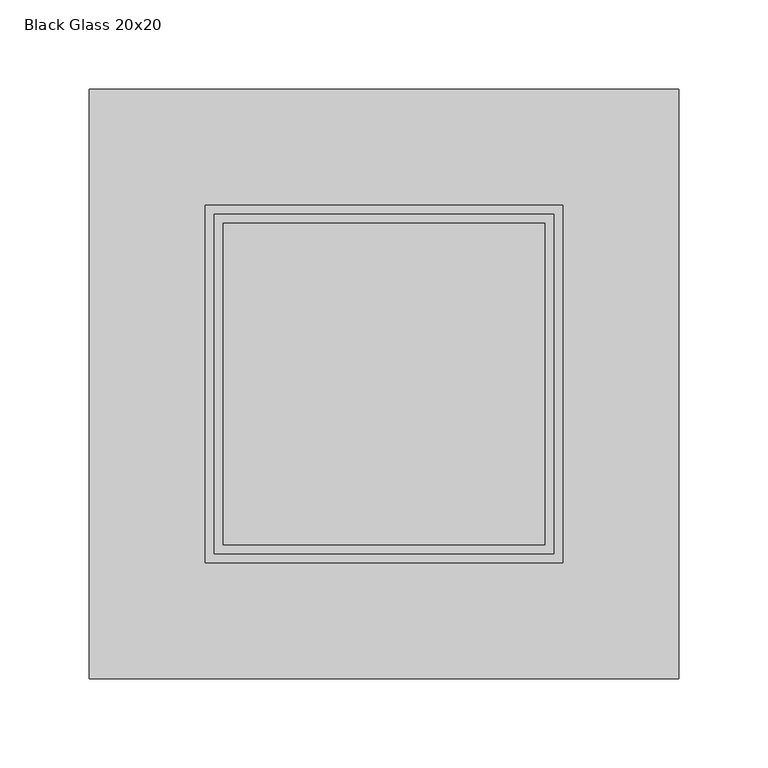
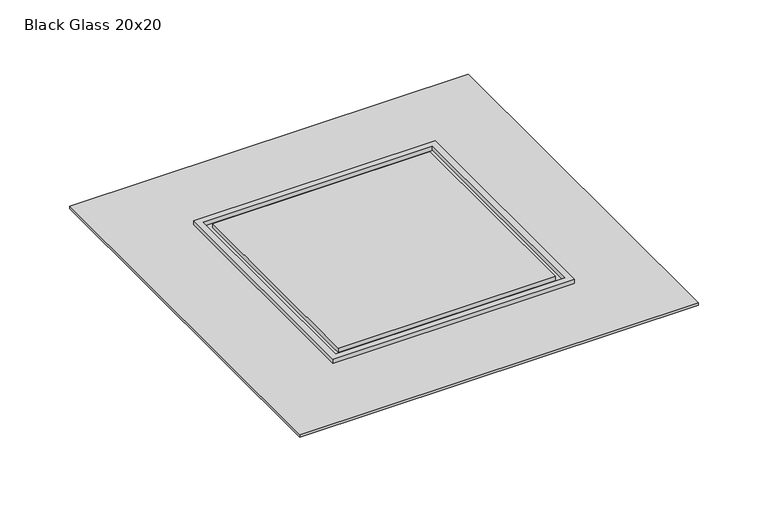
"""IFC4 building model written with IfcOpenShell, lengths in millimetres: sanitary terminal geometry, Z_DO_NOT_USE_NLRS_PF_52_UN_Aqua Jewels Quattro Complete_Easydrain : Black Glass 20x20."""

import ifcopenshell
import ifcopenshell.guid

model = None  # the IFC model being written
_history = None  # IfcOwnerHistory: only IFC2X3 demands one
_inside = {}  # id of a spatial element -> (the spatial element, [elements in it])
_under = {}  # id of a project, library or spatial element -> (it, [spatial elements below it])
_declared = {}  # id of a project -> (the project, [libraries it declares])
_typed = {}  # id of a type object -> (the type object, [elements of that type])
_made_of = {}  # id of a material, layer set ... -> (it, [elements and type objects made of it])


def new_model(schema):
    """Start an empty IFC model of exactly this schema.

    Asked for "IFC4X3", IfcOpenShell would pick the latest addendum, in which some entities
    have other attributes; the version numbers below select the first issue.
    IFC2X3 requires an IfcOwnerHistory on every rooted entity: one is made here for all.
    """
    global model, _history
    if schema == "IFC4X3":
        model = ifcopenshell.file(schema_version=(4, 3, 0, 0))
    else:
        model = ifcopenshell.file(schema=schema)
    _inside.clear()
    _under.clear()
    _declared.clear()
    _typed.clear()
    _made_of.clear()
    _history = None
    if model.schema == "IFC2X3":
        org = make("IfcOrganization", Name="unknown")
        user = make(
            "IfcPersonAndOrganization",
            ThePerson=make("IfcPerson", FamilyName="unknown"),
            TheOrganization=org,
        )
        app = make(
            "IfcApplication",
            ApplicationDeveloper=org,
            Version="unknown",
            ApplicationFullName="unknown",
            ApplicationIdentifier="unknown",
        )
        _history = make(
            "IfcOwnerHistory",
            OwningUser=user,
            OwningApplication=app,
            ChangeAction="ADDED",
            CreationDate=0,
        )
    return model


def make(cls, **values):
    """One entity of the class cls with the attributes given. An attribute that is None is left unset."""
    return model.create_entity(
        cls, **{name: value for name, value in values.items() if value is not None}
    )


def rooted(cls, **values):
    """An entity with a GlobalId (a new one), such as an element, a storey or a relation."""
    return make(cls, GlobalId=ifcopenshell.guid.new(), OwnerHistory=_history, **values)


def si_unit(unit_type, name, prefix=None):
    """IfcSIUnit, for example si_unit("LENGTHUNIT", "METRE", prefix="MILLI")."""
    return make("IfcSIUnit", UnitType=unit_type, Prefix=prefix, Name=name)


def assignment(units):
    """IfcUnitAssignment: the units of a project."""
    return None if units is None else make("IfcUnitAssignment", Units=units)


def point(xyz):
    """IfcCartesianPoint."""
    return None if xyz is None else make("IfcCartesianPoint", Coordinates=xyz)


def direction(xyz):
    """IfcDirection."""
    return None if xyz is None else make("IfcDirection", DirectionRatios=xyz)


def frame(location, z_axis=None, x_axis=None):
    """IfcAxis2Placement3D, a coordinate frame: its origin and axes. An axis left out is left unset."""
    return make(
        "IfcAxis2Placement3D",
        Location=point(location),
        Axis=direction(z_axis),
        RefDirection=direction(x_axis),
    )


def origin():
    """The frame at (0, 0, 0) with its axes left unset."""
    return frame((0.0, 0.0, 0.0))


def place(relative_to, where):
    """IfcLocalPlacement: puts the frame where relative to a parent placement (None: the world)."""
    return make(
        "IfcLocalPlacement", PlacementRelTo=relative_to, RelativePlacement=where
    )


def context(
    kind, dimensions, precision=None, world=None, true_north=None, identifier=None
):
    """IfcGeometricRepresentationContext, for example the 3D "Model" context."""
    return make(
        "IfcGeometricRepresentationContext",
        ContextIdentifier=identifier,
        ContextType=kind,
        CoordinateSpaceDimension=dimensions,
        Precision=precision,
        WorldCoordinateSystem=world,
        TrueNorth=true_north,
    )


def project(units=None, contexts=None):
    """IfcProject with its units and contexts."""
    return rooted(
        "IfcProject",
        Name="project",
        RepresentationContexts=contexts,
        UnitsInContext=assignment(units),
    )


def spatial(cls, under=None, at=None, **own):
    """A site, building, storey or space (cls), placed at a placement, below another one or the project."""
    s = rooted(cls, ObjectPlacement=at, **own)
    if under is not None:
        _under.setdefault(under.id(), (under, []))[1].append(s)
    return s


def polyline(points):
    """IfcPolyline through the points."""
    return make("IfcPolyline", Points=[point(p) for p in points])


def outline(outer, holes=None, kind="AREA"):
    """IfcArbitraryClosedProfileDef: a profile drawn as a closed curve; with holes, ...WithVoids."""
    if holes is None:
        return make("IfcArbitraryClosedProfileDef", ProfileType=kind, OuterCurve=outer)
    return make(
        "IfcArbitraryProfileDefWithVoids",
        ProfileType=kind,
        OuterCurve=outer,
        InnerCurves=holes,
    )


def extrude(swept, where, along, depth):
    """IfcExtrudedAreaSolid: the profile swept, set in the frame where, extruded along a direction by depth."""
    return make(
        "IfcExtrudedAreaSolid",
        SweptArea=swept,
        Position=where,
        ExtrudedDirection=direction(along),
        Depth=depth,
    )


def shape(context_of_items, identifier, shape_type, items):
    """IfcShapeRepresentation: the items that make up one representation, for example the "Body"."""
    return make(
        "IfcShapeRepresentation",
        ContextOfItems=context_of_items,
        RepresentationIdentifier=identifier,
        RepresentationType=shape_type,
        Items=items,
    )


def source(mapping_origin, context_of_items, identifier, shape_type, items):
    """IfcRepresentationMap: a shape defined once, which mapped items show again and again."""
    return make(
        "IfcRepresentationMap",
        MappingOrigin=mapping_origin,
        MappedRepresentation=shape(context_of_items, identifier, shape_type, items),
    )


def transform(
    local_origin,
    x_axis=None,
    y_axis=None,
    z_axis=None,
    scale=None,
    scale2=None,
    scale3=None,
    uniform=True,
):
    """IfcCartesianTransformationOperator3D, or its non-uniform kind. x_axis, y_axis, z_axis: its Axis1, 2, 3."""
    if uniform:
        return make(
            "IfcCartesianTransformationOperator3D",
            Axis1=direction(x_axis),
            Axis2=direction(y_axis),
            LocalOrigin=point(local_origin),
            Scale=scale,
            Axis3=direction(z_axis),
        )
    return make(
        "IfcCartesianTransformationOperator3DnonUniform",
        Axis1=direction(x_axis),
        Axis2=direction(y_axis),
        LocalOrigin=point(local_origin),
        Scale=scale,
        Axis3=direction(z_axis),
        Scale2=scale2,
        Scale3=scale3,
    )


def mapped(mapping_source, mapping_target):
    """IfcMappedItem: shows the shape of a source again, moved by a transform."""
    return make(
        "IfcMappedItem", MappingSource=mapping_source, MappingTarget=mapping_target
    )


def made_of(thing, what):
    """Note that an element or type object is made of a material, layer set ...; save() writes the relation."""
    if what is not None:
        _made_of.setdefault(what.id(), (what, []))[1].append(thing)
    return thing


def element(
    cls,
    number,
    at=None,
    inside=None,
    cuts=None,
    type_object=None,
    material=None,
    context=None,
    identifier="Body",
    shape_type=None,
    held_by="IfcProductDefinitionShape",
    body=None,
    shapes=None,
    **own,
):
    """One element of the class cls, such as IfcWall. Its Tag is "e" and its number.

    at: its placement. inside: the storey or other place that contains it. cuts: it is an
    opening in that element (IfcRelVoidsElement). A single representation is given by context,
    identifier, shape_type and body (its items); several are given by shapes. held_by: the class
    of the entity that holds the representations. save() writes the other relations.
    """
    e = rooted(cls, Tag="e%d" % number, ObjectPlacement=at, **own)
    if body is not None:
        shapes = [shape(context, identifier, shape_type, body)]
    if shapes is not None:
        e.Representation = make(held_by, Representations=shapes)
    if inside is not None:
        _inside.setdefault(inside.id(), (inside, []))[1].append(e)
    if cuts is not None:
        rooted(
            "IfcRelVoidsElement", RelatingBuildingElement=cuts, RelatedOpeningElement=e
        )
    if type_object is not None:
        _typed.setdefault(type_object.id(), (type_object, []))[1].append(e)
    return made_of(e, material)


def aggregate(whole, parts):
    """IfcRelAggregates: a whole, such as a stair, and the parts it consists of."""
    return rooted("IfcRelAggregates", RelatingObject=whole, RelatedObjects=parts)


def save(model, path):
    """Write the relations noted so far, then the file.

    IfcRelAggregates (storeys below a building ...), IfcRelContainedInSpatialStructure (elements
    in a storey), IfcRelDefinesByType, IfcRelAssociatesMaterial and IfcRelDeclares: one each for
    every whole, place, type object, material and project.
    """
    for whole, parts in _under.values():
        aggregate(whole, parts)
    for where, things in _inside.values():
        rooted(
            "IfcRelContainedInSpatialStructure",
            RelatedElements=things,
            RelatingStructure=where,
        )
    for kind, things in _typed.values():
        rooted("IfcRelDefinesByType", RelatedObjects=things, RelatingType=kind)
    for what, things in _made_of.values():
        rooted("IfcRelAssociatesMaterial", RelatedObjects=things, RelatingMaterial=what)
    for by, libraries in _declared.values():
        rooted("IfcRelDeclares", RelatingContext=by, RelatedDefinitions=libraries)
    model.write(path)


def black_glass_20x20_2d4f7b62(model_context):
    return source(origin(), model_context, "Body", "SweptSolid", [
        extrude(outline(polyline([(170.0, 155.0), (170.0, -175.0), (-160.0, -175.0), (-160.0, 155.0), (170.0, 155.0)])), frame((0.0, 0.0, -6.0), z_axis=(0.0, 0.0, 1.0), x_axis=(1.0, 0.0, 0.0)), (0.0, 0.0, 1.0), 2.0),
        extrude(outline(polyline([(105.0, 90.0), (105.0, -110.0), (-95.0, -110.0), (-95.0, 90.0), (105.0, 90.0)])), frame((0.0, 0.0, -25.0), z_axis=(0.0, 0.0, 1.0), x_axis=(1.0, 0.0, 0.0)), (0.0, 0.0, 1.0), 20.0),
        extrude(outline(polyline([(105.0, 90.0), (105.0, -110.0), (-95.0, -110.0), (-95.0, 90.0), (105.0, 90.0)]), holes=[polyline([(100.0, 85.0), (-90.0, 85.0), (-90.0, -105.0), (100.0, -105.0), (100.0, 85.0)])]), frame((0.0, 0.0, -5.0), z_axis=(0.0, 0.0, 1.0), x_axis=(1.0, 0.0, 0.0)), (0.0, 0.0, 1.0), 5.0),
        extrude(outline(polyline([(95.0, 80.0), (95.0, -100.0), (-85.0, -100.0), (-85.0, 80.0), (95.0, 80.0)])), frame((0.0, 0.0, -5.0), z_axis=(0.0, 0.0, 1.0), x_axis=(1.0, 0.0, 0.0)), (0.0, 0.0, 1.0), 5.0),
        extrude(outline(polyline([(135.0, 120.0), (135.0, -140.0), (-125.0, -140.0), (-125.0, 120.0), (135.0, 120.0)])), frame((0.0, 0.0, -7.0), z_axis=(0.0, 0.0, 1.0), x_axis=(1.0, 0.0, 0.0)), (0.0, 0.0, 1.0), 2.0),
    ])


if __name__ == "__main__":
    model = new_model("IFC4")
    model_context = context("Model", 3, world=origin())
    ifc_project = project(units=[si_unit("LENGTHUNIT", "METRE", prefix="MILLI")], contexts=[model_context])
    site = spatial("IfcSite", under=ifc_project)
    building = spatial("IfcBuilding", under=site)
    placement = place(None, origin())
    black_glass_20x20_shape = black_glass_20x20_2d4f7b62(model_context)
    element("IfcSanitaryTerminal", 1, ObjectType="Z_DO_NOT_USE_NLRS_PF_52_UN_Aqua Jewels Quattro Complete_Easydrain : Black Glass 20x20", at=placement, inside=building, context=model_context, shape_type="MappedRepresentation", body=[
        mapped(black_glass_20x20_shape, transform((0.0, 0.0, 0.0), x_axis=(1.0, 0.0, 0.0), y_axis=(0.0, 1.0, 0.0), z_axis=(0.0, 0.0, 1.0))),
    ])
    save(model, "model.ifc")
